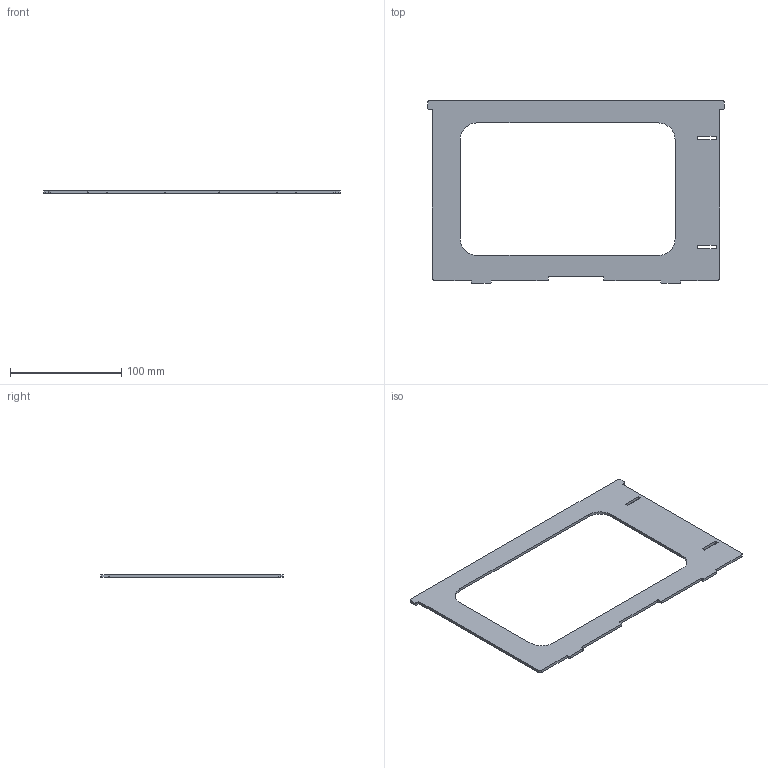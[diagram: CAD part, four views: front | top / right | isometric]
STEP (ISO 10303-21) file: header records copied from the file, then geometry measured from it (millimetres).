
FILE_DESCRIPTION((''),'2;1');
FILE_NAME('288087','2022-12-02T13:30:27',('vmorco'),(''),'CREO PARAMETRIC BY PTC INC, 2020454','CREO PARAMETRIC BY PTC INC, 2020454','');
FILE_SCHEMA(('AUTOMOTIVE_DESIGN { 1 0 10303 214 1 1 1 1 }'));
Length unit declared in the file: millimetre
Products named in the file (1): 288087
Bounding box: 266 x 164 x 2.5 mm (x, y, z)
Volume: 46917.8 mm3; surface area: 41394.9 mm2
Topology: 1 solids, 1 shells, 50 faces, 144 edges, 96 vertices
Faces by surface type: plane 34, cylinder 16
Entity records: 1723 total; most frequent: CARTESIAN_POINT 292, ORIENTED_EDGE 288, DIRECTION 276, EDGE_CURVE 144, VECTOR 112, LINE 112, VERTEX_POINT 96, AXIS2_PLACEMENT_3D 82
